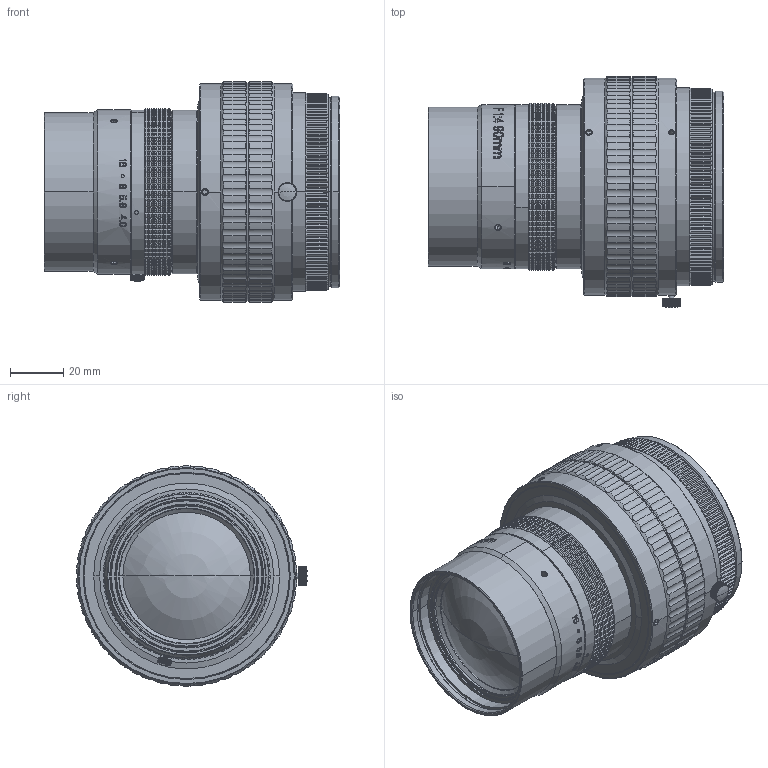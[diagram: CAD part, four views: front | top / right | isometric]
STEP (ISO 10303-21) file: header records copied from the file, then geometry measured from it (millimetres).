
FILE_DESCRIPTION((''),'2;1');
FILE_NAME('ASM0001_ASM','2024-10-10T',('Jennifer_Lu'),(''),'PRO/ENGINEER BY PARAMETRIC TECHNOLOGY CORPORATION, 2008380','PRO/ENGINEER BY PARAMETRIC TECHNOLOGY CORPORATION, 2008380','');
FILE_SCHEMA(('CONFIG_CONTROL_DESIGN'));
Length unit declared in the file: millimetre
Products named in the file (2): _VT-LEN72-9040MP150; ASM0001_ASM
Assembly tree (1 placements, depth 2):
  ASM0001_ASM
    _VT-LEN72-9040MP150
Bounding box: 111.39 x 86.98 x 83 mm (x, y, z)
Volume: 216723.8 mm3; surface area: 113317.5 mm2
Topology: 1 solids, 24 shells, 5134 faces, 12008 edges, 6953 vertices
Faces by surface type: plane 1942, cone 1676, cylinder 1258, bspline 242, sphere 12, extrusion 4
Entity records: 164082 total; most frequent: CARTESIAN_POINT 53918, ORIENTED_EDGE 23928, DIRECTION 21513, EDGE_CURVE 11996, AXIS2_PLACEMENT_3D 8603, VERTEX_POINT 6953, EDGE_LOOP 5249, FACE_OUTER_BOUND 5134
